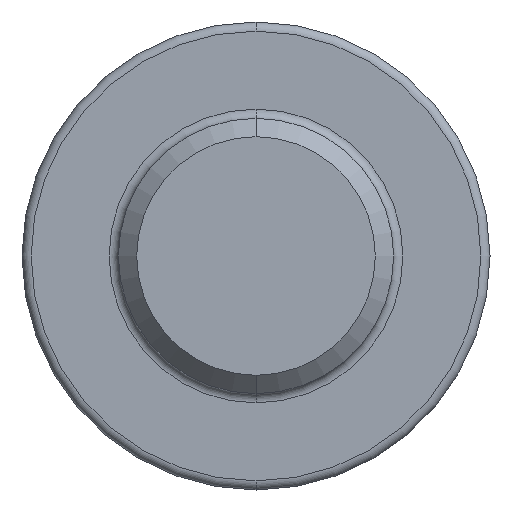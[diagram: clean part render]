
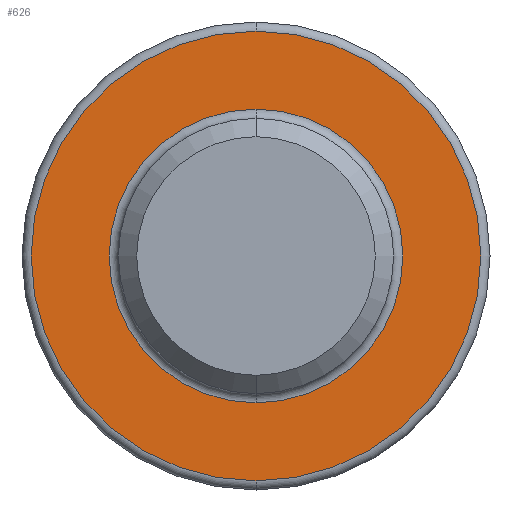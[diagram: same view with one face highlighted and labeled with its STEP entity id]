
A CAD part, front view. The second image highlights one B-rep face of the part: STEP entity #626.
In plain terms, the highlighted planar face has unit normal (0, -1, 0).
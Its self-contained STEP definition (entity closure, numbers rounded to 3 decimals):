
#4 = ORIENTED_EDGE ( 'NONE', *, *, #158, .T. ) ;
#45 = AXIS2_PLACEMENT_3D ( 'NONE', #288, #424, #829 ) ;
#73 = CARTESIAN_POINT ( 'NONE',  ( 0., -3.2, 4.9 ) ) ;
#145 = CIRCLE ( 'NONE', #325, 4.9 ) ;
#152 = FACE_OUTER_BOUND ( 'NONE', #659, .T. ) ;
#153 = DIRECTION ( 'NONE',  ( 0., 1., 0. ) ) ;
#158 = EDGE_CURVE ( 'NONE', #579, #793, #838, .T. ) ;
#186 = EDGE_LOOP ( 'NONE', ( #4, #589 ) ) ;
#192 = DIRECTION ( 'NONE',  ( 0., 1., 0. ) ) ;
#198 = DIRECTION ( 'NONE',  ( 0., -1., 0. ) ) ;
#201 = CARTESIAN_POINT ( 'NONE',  ( 0., -3.2, -4.9 ) ) ;
#259 = DIRECTION ( 'NONE',  ( 0., 0., 1. ) ) ;
#283 = CIRCLE ( 'NONE', #534, 4.9 ) ;
#288 = CARTESIAN_POINT ( 'NONE',  ( 3., -3.2, 0. ) ) ;
#305 = PLANE ( 'NONE',  #45 ) ;
#322 = AXIS2_PLACEMENT_3D ( 'NONE', #808, #153, #812 ) ;
#325 = AXIS2_PLACEMENT_3D ( 'NONE', #851, #198, #259 ) ;
#362 = ORIENTED_EDGE ( 'NONE', *, *, #444, .T. ) ;
#394 = VERTEX_POINT ( 'NONE', #201 ) ;
#424 = DIRECTION ( 'NONE',  ( 0., 1., 0. ) ) ;
#444 = EDGE_CURVE ( 'NONE', #558, #394, #145, .T. ) ;
#463 = AXIS2_PLACEMENT_3D ( 'NONE', #654, #192, #577 ) ;
#487 = CARTESIAN_POINT ( 'NONE',  ( 0., -3.2, 3.2 ) ) ;
#523 = CARTESIAN_POINT ( 'NONE',  ( 0., -3.2, -3.2 ) ) ;
#534 = AXIS2_PLACEMENT_3D ( 'NONE', #625, #821, #750 ) ;
#558 = VERTEX_POINT ( 'NONE', #73 ) ;
#577 = DIRECTION ( 'NONE',  ( 0., 0., 1. ) ) ;
#579 = VERTEX_POINT ( 'NONE', #487 ) ;
#589 = ORIENTED_EDGE ( 'NONE', *, *, #809, .T. ) ;
#623 = FACE_BOUND ( 'NONE', #186, .T. ) ;
#625 = CARTESIAN_POINT ( 'NONE',  ( 0., -3.2, 0. ) ) ;
#626 = ADVANCED_FACE ( 'NONE', ( #623, #152 ), #305, .F. ) ;
#648 = CIRCLE ( 'NONE', #463, 3.2 ) ;
#654 = CARTESIAN_POINT ( 'NONE',  ( 0., -3.2, 0. ) ) ;
#659 = EDGE_LOOP ( 'NONE', ( #362, #772 ) ) ;
#668 = EDGE_CURVE ( 'NONE', #394, #558, #283, .T. ) ;
#750 = DIRECTION ( 'NONE',  ( 0., 0., 1. ) ) ;
#772 = ORIENTED_EDGE ( 'NONE', *, *, #668, .T. ) ;
#793 = VERTEX_POINT ( 'NONE', #523 ) ;
#808 = CARTESIAN_POINT ( 'NONE',  ( 0., -3.2, 0. ) ) ;
#809 = EDGE_CURVE ( 'NONE', #793, #579, #648, .T. ) ;
#812 = DIRECTION ( 'NONE',  ( 0., 0., 1. ) ) ;
#821 = DIRECTION ( 'NONE',  ( 0., -1., 0. ) ) ;
#829 = DIRECTION ( 'NONE',  ( 0., 0., 1. ) ) ;
#838 = CIRCLE ( 'NONE', #322, 3.2 ) ;
#851 = CARTESIAN_POINT ( 'NONE',  ( 0., -3.2, 0. ) ) ;
